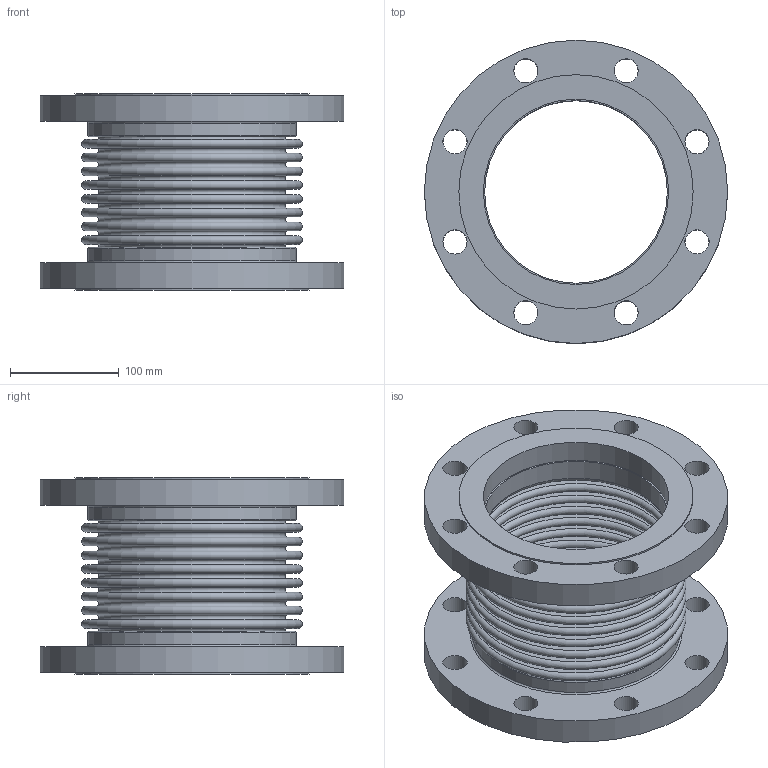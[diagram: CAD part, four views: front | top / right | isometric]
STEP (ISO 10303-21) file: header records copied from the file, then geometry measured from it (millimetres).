
FILE_DESCRIPTION(/* description */ ('EXPANSION JOINT,SINGLE, FLANGED ENDS,6 INCH NOMINAL','CAx-IF Rec.Pracs.---Representation and Presentation of Product Manufacturing Information (PMI)---4.0---2014-10-13'),/* implementation_level */ '2;1');
FILE_NAME(/* name */ 'US-06-8-300S-FLANGED ENDS.stp',/* time_stamp */ '2026-07-31T17:06:35-05:00',/* author */ ('Guadalupe'),/* organization */ (''),/* preprocessor_version */ 'ST-DEVELOPER v20.1',/* originating_system */ 'Autodesk Inventor 2026',/* authorisation */ '');
FILE_SCHEMA (('AP242_MANAGED_MODEL_BASED_3D_ENGINEERING_MIM_LF { 1 0 10303 442 2 1 4 }'));
Length unit declared in the file: inch
Products named in the file (3): 06-300S; 06-300S-02; 06-300S-01
Assembly tree (3 placements, depth 2):
  06-300S
    06-300S-02  x2
    06-300S-01
Bounding box: 279.4 x 279.4 x 180.85 mm (x, y, z)
Volume: 2210961.5 mm3; surface area: 680852 mm2
Topology: 5 solids, 5 shells, 112 faces, 198 edges, 132 vertices
Faces by surface type: plane 46, torus 38, cylinder 28
Full cylindrical faces by diameter (mm): 22.225 x16, 168.275 x2, 170.688 x2, 171.323 x2, 192.024 x2, 215.9 x2, 279.4 x2
Entity records: 2558 total; most frequent: DIRECTION 522, CARTESIAN_POINT 377, ORIENTED_EDGE 312, AXIS2_PLACEMENT_3D 253, EDGE_CURVE 156, EDGE_LOOP 152, CIRCLE 140, VERTEX_POINT 104
